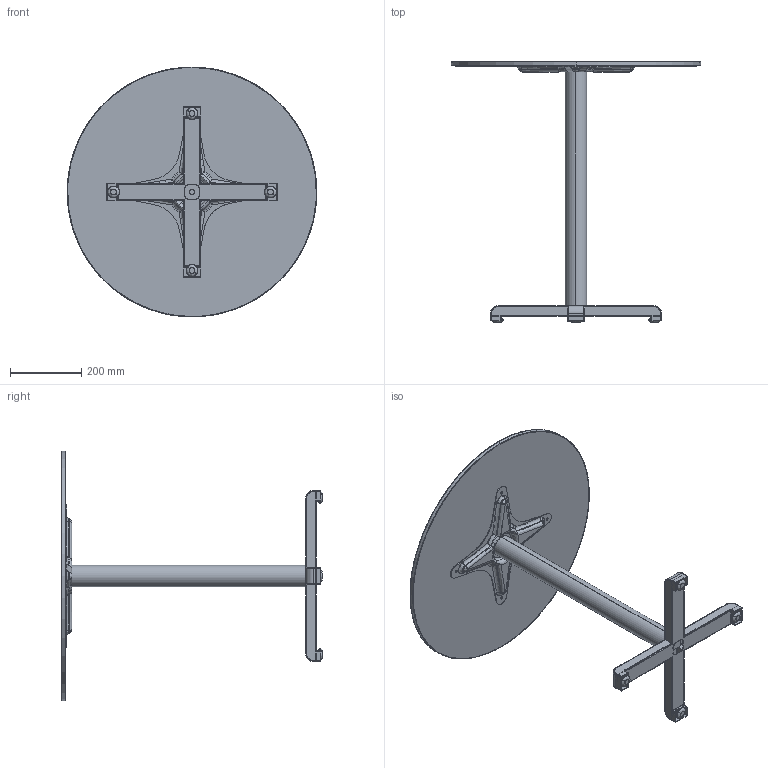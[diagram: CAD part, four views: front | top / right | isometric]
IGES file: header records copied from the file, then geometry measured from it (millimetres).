
Start section: SolidWorks IGES file using analytic representation for surfaces
Global section: file name: C:\Users\Ýbrahim Mert\Desktop\SW çizimler\3D Enjeksiyon Ürünler\masalar\Q700.IGS; native system: SolidWorks 2011; preprocessor: SolidWorks 2011; author: Ýbrahim Mert; date: 150303.000356; units: millimetre
Bounding box: 700 x 731 x 700 mm (x, y, z)
Surface area: 1456515 mm2 (no closed solid volume)
Topology: 0 solids, 0 shells, 462 faces, 5930 edges, 5930 vertices
Faces by surface type: bspline 255, revolution 207
